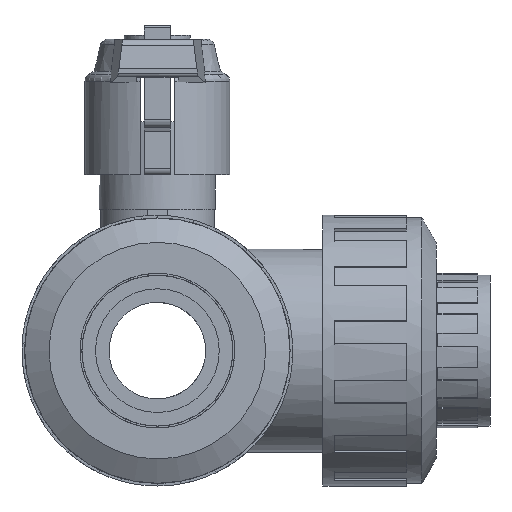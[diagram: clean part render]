
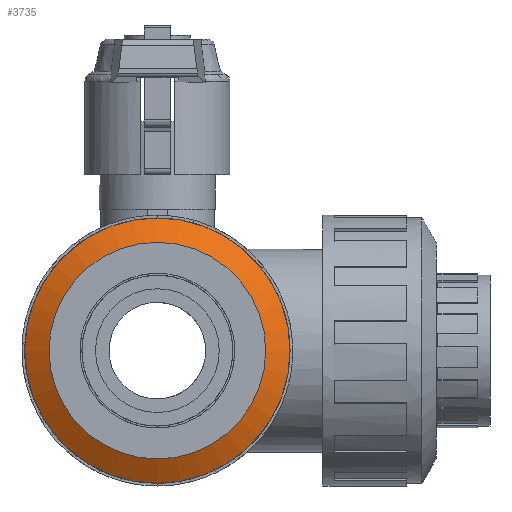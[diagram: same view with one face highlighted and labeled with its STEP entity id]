
A CAD part, left-side view. The second image highlights one B-rep face of the part: STEP entity #3735.
In plain terms, the highlighted conical face has half-angle 60 degrees and reference radius 31.5 mm.
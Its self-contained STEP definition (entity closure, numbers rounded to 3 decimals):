
#3708=CARTESIAN_POINT('',(-70.031,0.0,0.0));
#3709=DIRECTION('',(1.0,0.0,0.0));
#3710=DIRECTION('',(0.0,0.0,1.0));
#3711=AXIS2_PLACEMENT_3D('',#3708,#3709,#3710);
#3712=CONICAL_SURFACE('',#3711,31.5,60.);
#3713=CARTESIAN_POINT('',(-72.052,0.,-28.));
#3714=VERTEX_POINT('',#3713);
#3715=CARTESIAN_POINT('',(-72.052,0.0,0.0));
#3716=DIRECTION('',(-1.0,0.0,0.0));
#3717=DIRECTION('',(0.0,0.0,1.0));
#3718=AXIS2_PLACEMENT_3D('',#3715,#3716,#3717);
#3719=CIRCLE('',#3718,28.);
#3720=EDGE_CURVE('',#3714,#3714,#3719,.T.);
#3721=ORIENTED_EDGE('',*,*,#3720,.F.);
#3722=EDGE_LOOP('',(#3721));
#3723=FACE_OUTER_BOUND('',#3722,.T.);
#3724=CARTESIAN_POINT('',(-68.414,0.,-34.3));
#3725=VERTEX_POINT('',#3724);
#3726=CARTESIAN_POINT('',(-68.414,0.0,0.0));
#3727=DIRECTION('',(-1.0,0.0,0.0));
#3728=DIRECTION('',(0.0,0.0,1.0));
#3729=AXIS2_PLACEMENT_3D('',#3726,#3727,#3728);
#3730=CIRCLE('',#3729,34.3);
#3731=EDGE_CURVE('',#3725,#3725,#3730,.T.);
#3732=ORIENTED_EDGE('',*,*,#3731,.T.);
#3733=EDGE_LOOP('',(#3732));
#3734=FACE_BOUND('',#3733,.T.);
#3735=ADVANCED_FACE('',(#3723,#3734),#3712,.T.);
